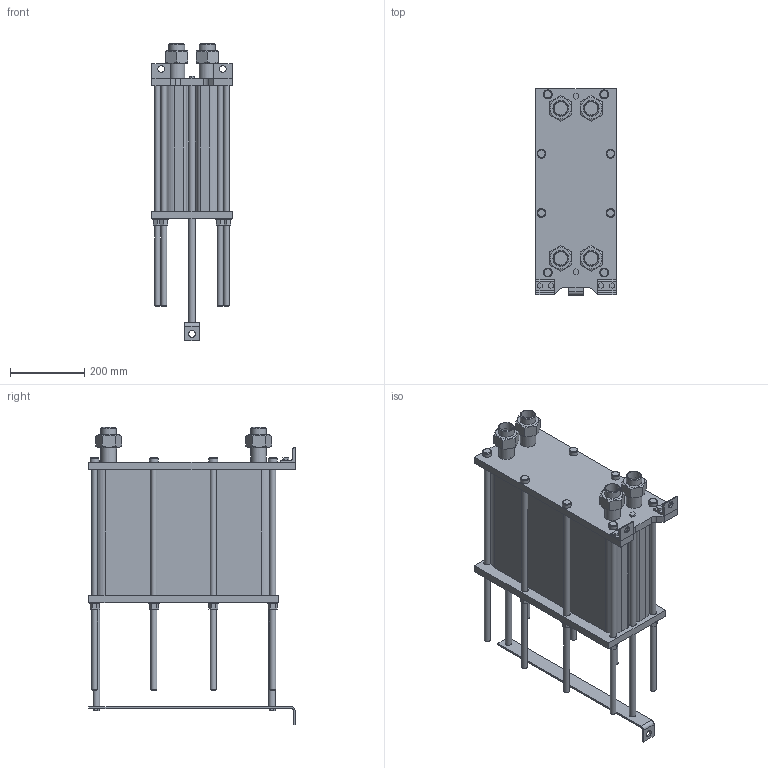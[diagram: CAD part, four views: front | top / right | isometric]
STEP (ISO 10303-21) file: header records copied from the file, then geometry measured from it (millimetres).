
FILE_DESCRIPTION(/* description */ (''),/* implementation_level */ '2;1');
FILE_NAME(/* name */ 'C:\Users\zhuro\Desktop\ENCO\TO\ЭН-004\ЭН-0,5-004-109-1.stp',/* time_stamp */ '2022-06-06T10:53:21+03:00',/* author */ ('zhuro'),/* organization */ (''),/* preprocessor_version */ 'ST-DEVELOPER v18.1',/* originating_system */ 'Autodesk Inventor 2022',/* authorisation */ '');
FILE_SCHEMA (('AUTOMOTIVE_DESIGN { 1 0 10303 214 3 1 1 }'));
Length unit declared in the file: millimetre
Products named in the file (1): ЭН-0,5-004-109-1
Bounding box: 216 x 555 x 800.2 mm (x, y, z)
Volume: 31127336.5 mm3; surface area: 1690265.8 mm2
Topology: 40 solids, 40 shells, 403 faces, 865 edges, 574 vertices
Faces by surface type: plane 272, cylinder 103, cone 28
Full cylindrical faces by diameter (mm): 10 x4, 16 x16, 18 x29, 20 x2, 24 x8, 28 x8, 36.3 x5, 42.3 x9
Entity records: 11137 total; most frequent: CARTESIAN_POINT 1939, DIRECTION 1879, ORIENTED_EDGE 1730, EDGE_CURVE 865, AXIS2_PLACEMENT_3D 658, VERTEX_POINT 574, LINE 563, VECTOR 563
